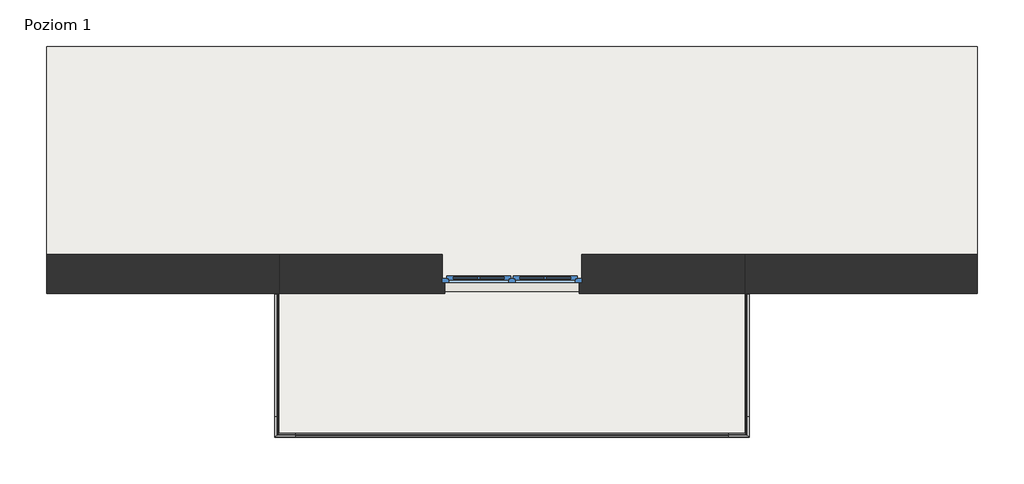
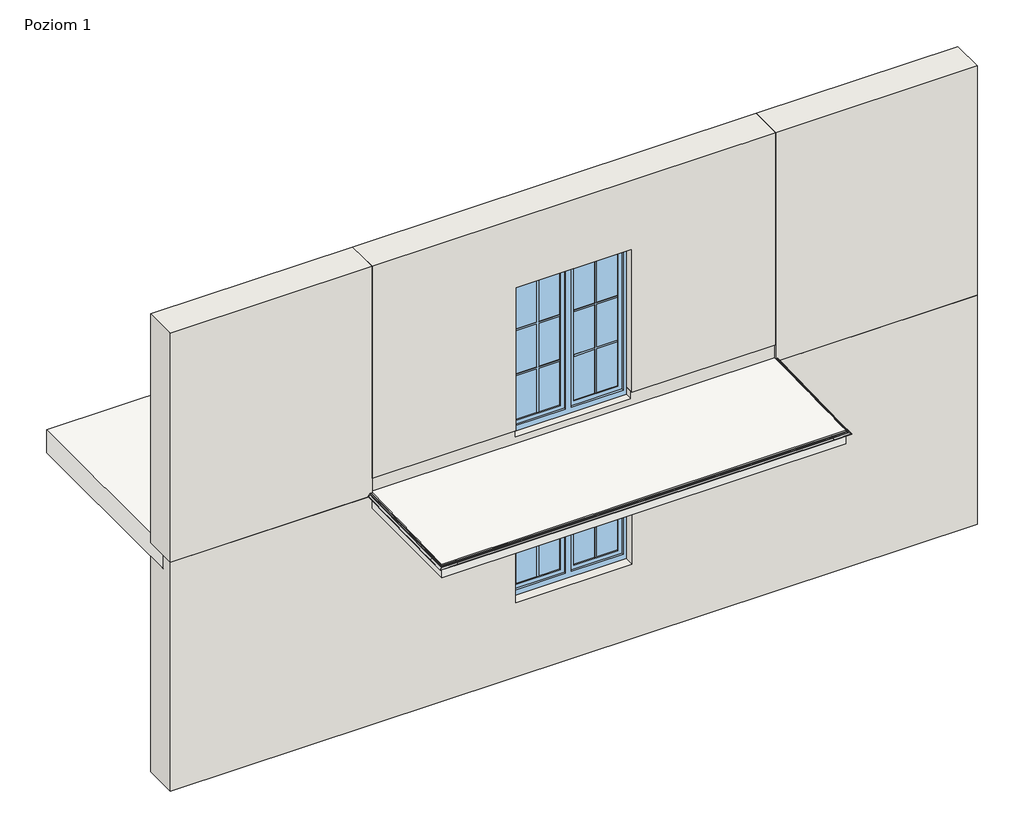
# One storey, part 1 of 4: 5 proxies, 5 walls, 2 slabs, 2 windows.
"""IFC4 building model written with IfcOpenShell, lengths in millimetres."""

from ifc_helpers import new_model, si_unit, origin, place, context, project, spatial, faceted_brep, transform, mapped, element, save
from components import generic_models_2d19b20a, generic_models_3ce2d982, k102_213efe2d, k102_157f2f9b, k102_e13a818e, window_150x150_51b7f79a, window_150x200_12b14935

model = new_model("IFC4")

# Units and contexts
model_context = context("Model", 3, world=origin())
ifc_project = project(units=[si_unit("LENGTHUNIT", "METRE", prefix="MILLI")], contexts=[model_context])

# Site, building, storey
site = spatial("IfcSite", under=ifc_project)
building = spatial("IfcBuilding", under=site)
storey = spatial("IfcBuildingStorey", under=building, Name="Poziom 1", Elevation=0.0)

# Proxies
placement = place(None, origin())
generic_models_shape = generic_models_2d19b20a(model_context)
element("IfcBuildingElementProxy", 1, Name="Odbojnik przyścienny K102 : Odbojnik przyścienny K102", ObjectType="Odbojnik przyścienny K102 : Odbojnik przyścienny K102", at=placement, inside=storey, context=model_context, shape_type="MappedRepresentation", body=[
    mapped(generic_models_shape, transform((-108130.8808604, 47036.5287357, -100.214734), x_axis=(0.0, 0.9998020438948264, 0.019896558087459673), y_axis=(-1.0, 0.0, 0.0), z_axis=(0.0, -0.01989655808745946, 0.9998020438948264))),
])
generic_models_2_shape = generic_models_3ce2d982(model_context)
element("IfcBuildingElementProxy", 2, Name="Odbojnik przyścienny K102 : Odbojnik przyścienny K102", ObjectType="Odbojnik przyścienny K102 : Odbojnik przyścienny K102", at=placement, inside=storey, context=model_context, shape_type="MappedRepresentation", body=[
    mapped(generic_models_2_shape, transform((-113130.3808604, 47036.6029022, -100.213258), x_axis=(0.0, 0.9998020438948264, 0.019896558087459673), y_axis=(-1.0, 0.0, 0.0), z_axis=(0.0, -0.01989655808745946, 0.9998020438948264))),
])
k102_shape = k102_213efe2d(model_context)
element("IfcBuildingElementProxy", 3, Name="K102 Profil okapowy prosty : K102", ObjectType="K102 Profil okapowy prosty : K102", at=placement, inside=storey, context=model_context, shape_type="MappedRepresentation", body=[
    mapped(k102_shape, transform((-113130.6308604, 45539.9782757, -129.9968327), x_axis=(1.0, 0.0, 0.0), y_axis=(0.0, 0.9998020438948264, 0.01989655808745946), z_axis=(0.0, -0.01989655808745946, 0.9998020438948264))),
])
k102_2_shape = k102_157f2f9b(model_context)
element("IfcBuildingElementProxy", 4, Name="K102 Profil okapowy prosty : K102", ObjectType="K102 Profil okapowy prosty : K102", at=placement, inside=storey, context=model_context, shape_type="MappedRepresentation", body=[
    mapped(k102_2_shape, transform((-108130.6308604, 47036.5287357, -100.214734), x_axis=(0.0, -0.9998020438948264, -0.019896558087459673), y_axis=(1.0, 0.0, 0.0), z_axis=(0.0, -0.01989655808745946, 0.9998020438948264))),
])
k102_3_shape = k102_e13a818e(model_context)
element("IfcBuildingElementProxy", 5, Name="K102 Profil okapowy prosty : K102", ObjectType="K102 Profil okapowy prosty : K102", at=placement, inside=storey, context=model_context, shape_type="MappedRepresentation", body=[
    mapped(k102_3_shape, transform((-113130.6308604, 47036.6029022, -100.213258), x_axis=(0.0, -0.9998020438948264, -0.019896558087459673), y_axis=(1.0, 0.0, 0.0), z_axis=(0.0, -0.01989655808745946, 0.9998020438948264))),
])

# Slabs
element("IfcSlab", 6, ObjectType="Balkon - posadzka ceramiczna", at=placement, inside=storey, context=model_context, shape_type="Brep", body=[
    faceted_brep([(-113130.6308604, 45539.6599308, -290.0), (-113130.6308604, 47039.6599308, -290.0), (-113130.6308604, 47147.6599308, -290.0), (-108130.6308604, 47147.6599308, -290.0), (-108130.6308604, 47039.6599308, -290.0), (-108130.6308604, 45539.6599308, -290.0), (-113130.6308604, 45539.6599308, -114.0), (-113130.6308604, 47061.6599308, -83.7114428), (-113130.6308604, 47147.6599308, -82.0), (-113130.6308604, 47147.6599308, -125.0), (-108130.6308604, 47147.6599308, -82.0), (-108130.6308604, 47147.6599308, -125.0), (-108130.6308604, 45539.6599308, -114.0), (-108130.6308604, 47061.6599308, -83.7114428)], [[[0, 1, 2, 3, 4, 5]], [[2, 1, 0, 6, 7, 8, 9]], [[3, 2, 9, 8, 10, 11]], [[0, 5, 12, 6]], [[5, 4, 3, 11, 10, 13, 12]], [[12, 13, 10, 8, 7, 6]]]),
])
element("IfcSlab", 7, ObjectType="Strop", at=placement, inside=storey, context=model_context, shape_type="Brep", body=[
    faceted_brep([(-105630.6308604, 47194.6599308, -300.0), (-115630.6308604, 47194.6599308, -300.0), (-115630.6308604, 47459.6599308, -300.0), (-115630.6308604, 49694.6599308, -300.0), (-105630.6308604, 49694.6599308, -300.0), (-105630.6308604, 47459.6599308, -300.0), (-105630.6308604, 47194.6599308, 0.0), (-105630.6308604, 49694.6599308, 0.0), (-115630.6308604, 49694.6599308, 0.0), (-115630.6308604, 47194.6599308, 0.0), (-113130.6308604, 47194.6599308, 0.0), (-111380.6308604, 47194.6599308, 0.0), (-109880.6308604, 47194.6599308, 0.0), (-108130.6308604, 47194.6599308, 0.0), (-105630.6308604, 47194.6599308, -125.0), (-115630.6308604, 47194.6599308, -125.0)], [[[0, 1, 2, 3, 4, 5]], [[6, 7, 8, 9, 10, 11, 12, 13]], [[1, 0, 14, 6, 13, 12, 11, 10, 9, 15]], [[3, 2, 1, 15, 9, 8]], [[4, 3, 8, 7]], [[0, 5, 4, 7, 6, 14]]]),
])

# Walls
element("IfcWall", 8, ObjectType="Porotherm P+W 25 + o15 + t", at=placement, inside=storey, context=model_context, shape_type="Brep", body=[
    faceted_brep([(-115630.6308604, 47039.6599308, -3125.0), (-105630.6308604, 47039.6599308, -3125.0), (-105630.6308604, 47039.6599308, -125.0), (-108130.6308604, 47039.6599308, -125.0), (-108130.6308604, 47039.6599308, -290.0), (-113130.6308604, 47039.6599308, -290.0), (-113130.6308604, 47039.6599308, -125.0), (-115630.6308604, 47039.6599308, -125.0), (-109910.6308604, 47039.6599308, -680.0), (-109910.6308604, 47039.6599308, -2150.0), (-111350.6308604, 47039.6599308, -2150.0), (-111350.6308604, 47039.6599308, -680.0), (-105630.6308604, 47459.6599308, -3125.0), (-115630.6308604, 47459.6599308, -3125.0), (-115630.6308604, 47459.6599308, -300.0), (-105630.6308604, 47459.6599308, -300.0), (-109880.6308604, 47459.6599308, -2150.0), (-109880.6308604, 47459.6599308, -650.0), (-111380.6308604, 47459.6599308, -650.0), (-111380.6308604, 47459.6599308, -2150.0), (-105630.6308604, 47194.6599308, -300.0), (-105630.6308604, 47194.6599308, -125.0), (-108130.6308604, 47194.6599308, -125.0), (-113130.6308604, 47194.6599308, -125.0), (-115630.6308604, 47194.6599308, -125.0), (-113130.6308604, 47147.6599308, -125.0), (-108130.6308604, 47147.6599308, -125.0), (-115630.6308604, 47194.6599308, -300.0), (-109880.6308604, 47159.6599308, -650.0), (-109880.6308604, 47159.6599308, -2150.0), (-109910.6308604, 47159.6599308, -680.0), (-109910.6308604, 47159.6599308, -2150.0), (-108130.6308604, 47147.6599308, -290.0), (-113130.6308604, 47147.6599308, -290.0), (-111380.6308604, 47159.6599308, -650.0), (-111380.6308604, 47159.6599308, -2150.0), (-111350.6308604, 47159.6599308, -2150.0), (-111350.6308604, 47159.6599308, -680.0)], [[[0, 1, 2, 3, 4, 5, 6, 7], [8, 9, 10, 11]], [[12, 13, 14, 15], [16, 17, 18, 19]], [[1, 0, 13, 12]], [[2, 1, 12, 15, 20, 21]], [[2, 21, 22, 23, 24, 7, 6, 25, 26, 3]], [[0, 7, 24, 27, 14, 13]], [[28, 17, 16, 29]], [[8, 30, 31, 9]], [[27, 20, 15, 14]], [[20, 27, 24, 23, 22, 21]], [[32, 33, 5, 4]], [[5, 33, 25, 6]], [[33, 32, 26, 25]], [[32, 4, 3, 26]], [[17, 28, 34, 18]], [[29, 16, 19, 35, 36, 10, 9, 31]], [[34, 28, 29, 31, 30, 37, 36, 35]], [[34, 35, 19, 18]], [[30, 8, 11, 37]], [[10, 36, 37, 11]]]),
])
element("IfcWall", 9, ObjectType="Porotherm P+W 25 + o15 + t", at=placement, inside=storey, context=model_context, shape_type="Brep", body=[
    faceted_brep([(-115630.6308604, 47039.6599308, -125.0), (-113130.6308604, 47039.6599308, -125.0), (-113130.6308604, 47039.6599308, 100.0), (-113130.6308604, 47039.6599308, 2875.0), (-115630.6308604, 47039.6599308, 2875.0), (-115630.6308604, 47459.6599308, -125.0), (-115630.6308604, 47459.6599308, 2875.0), (-113130.6308604, 47459.6599308, 2875.0), (-113130.6308604, 47459.6599308, 100.0), (-113130.6308604, 47459.6599308, 0.0), (-113130.6308604, 47459.6599308, -125.0), (-115630.6308604, 47194.6599308, -125.0), (-113130.6308604, 47194.6599308, -125.0), (-113130.6308604, 47147.6599308, -125.0)], [[[0, 1, 2, 3, 4]], [[5, 6, 7, 8, 9, 10]], [[1, 0, 11, 5, 10, 12, 13]], [[4, 3, 7, 6]], [[0, 4, 6, 5, 11]], [[1, 13, 12, 10, 9, 8, 7, 3, 2]]]),
])
element("IfcWall", 10, ObjectType="Porotherm P+W 25 + o15 + t", at=placement, inside=storey, context=model_context, shape_type="Brep", body=[
    faceted_brep([(-108130.6308604, 47039.6599308, 2875.0), (-108130.6308604, 47039.6599308, 100.0), (-108130.6308604, 47039.6599308, -125.0), (-105630.6308604, 47039.6599308, -125.0), (-105630.6308604, 47039.6599308, 2875.0), (-108130.6308604, 47459.6599308, -125.0), (-108130.6308604, 47459.6599308, 0.0), (-108130.6308604, 47459.6599308, 100.0), (-108130.6308604, 47459.6599308, 2875.0), (-105630.6308604, 47459.6599308, 2875.0), (-105630.6308604, 47459.6599308, -125.0), (-108130.6308604, 47147.6599308, -125.0), (-108130.6308604, 47194.6599308, -125.0), (-105630.6308604, 47194.6599308, -125.0)], [[[0, 1, 2, 3, 4]], [[5, 6, 7, 8, 9, 10]], [[3, 2, 11, 12, 5, 10, 13]], [[4, 3, 13, 10, 9]], [[0, 4, 9, 8]], [[0, 8, 7, 6, 5, 12, 11, 2, 1]]]),
])
element("IfcWall", 11, ObjectType="Porotherm P+W 25 + o12 + pł ceramiczne", at=placement, inside=storey, context=model_context, shape_type="Brep", body=[
    faceted_brep([(-108130.6308604, 47061.6599308, 100.0), (-109910.6308604, 47061.6599308, 100.0), (-109910.6308604, 47061.6599308, 0.0), (-111350.6308604, 47061.6599308, 0.0), (-111350.6308604, 47061.6599308, 100.0), (-113130.6308604, 47061.6599308, 100.0), (-113130.6308604, 47061.6599308, -83.7114428), (-108130.6308604, 47061.6599308, -83.7114428), (-113130.6308604, 47459.6599308, 0.0), (-113130.6308604, 47459.6599308, 100.0), (-111380.6308604, 47459.6599308, 100.0), (-111380.6308604, 47459.6599308, 0.0), (-108130.6308604, 47459.6599308, 100.0), (-108130.6308604, 47459.6599308, 0.0), (-109880.6308604, 47459.6599308, 0.0), (-109880.6308604, 47459.6599308, 100.0), (-113130.6308604, 47194.6599308, -125.0), (-108130.6308604, 47194.6599308, -125.0), (-108130.6308604, 47147.6599308, -125.0), (-113130.6308604, 47147.6599308, -125.0), (-108130.6308604, 47147.6599308, -82.0), (-108130.6308604, 47194.6599308, 0.0), (-109880.6308604, 47159.6599308, 100.0), (-109910.6308604, 47159.6599308, 100.0), (-111350.6308604, 47159.6599308, 100.0), (-111380.6308604, 47159.6599308, 100.0), (-113130.6308604, 47194.6599308, 0.0), (-113130.6308604, 47147.6599308, -82.0), (-111380.6308604, 47194.6599308, 0.0), (-109880.6308604, 47194.6599308, 0.0), (-111380.6308604, 47159.6599308, 0.0), (-111350.6308604, 47159.6599308, 0.0), (-109910.6308604, 47159.6599308, 0.0), (-109880.6308604, 47159.6599308, 0.0)], [[[0, 1, 2, 3, 4, 5, 6, 7]], [[8, 9, 10, 11]], [[12, 13, 14, 15]], [[16, 17, 18, 19]], [[12, 0, 7, 20, 18, 17, 21, 13]], [[0, 12, 15, 22, 23, 1]], [[9, 5, 4, 24, 25, 10]], [[5, 9, 8, 26, 16, 19, 27, 6]], [[8, 11, 28, 26]], [[13, 21, 29, 14]], [[17, 16, 26, 28, 29, 21]], [[20, 27, 19, 18]], [[27, 20, 7, 6]], [[30, 31, 3, 2, 32, 33, 29, 28]], [[31, 30, 25, 24]], [[33, 32, 23, 22]], [[33, 22, 15, 14, 29]], [[25, 30, 28, 11, 10]], [[32, 2, 1, 23]], [[3, 31, 24, 4]]]),
])
element("IfcWall", 12, ObjectType="Porotherm P+W 25 + o15 + t", at=placement, inside=storey, context=model_context, shape_type="Brep", body=[
    faceted_brep([(-108130.6308604, 47039.6599308, 100.0), (-108130.6308604, 47039.6599308, 2875.0), (-113130.6308604, 47039.6599308, 2875.0), (-113130.6308604, 47039.6599308, 100.0), (-111350.6308604, 47039.6599308, 100.0), (-111350.6308604, 47039.6599308, 1970.0), (-109910.6308604, 47039.6599308, 1970.0), (-109910.6308604, 47039.6599308, 100.0), (-108130.6308604, 47459.6599308, 2875.0), (-108130.6308604, 47459.6599308, 100.0), (-109880.6308604, 47459.6599308, 100.0), (-109880.6308604, 47459.6599308, 2000.0), (-111380.6308604, 47459.6599308, 2000.0), (-111380.6308604, 47459.6599308, 100.0), (-113130.6308604, 47459.6599308, 100.0), (-113130.6308604, 47459.6599308, 2875.0), (-113130.6308604, 47061.6599308, 100.0), (-111380.6308604, 47159.6599308, 100.0), (-111350.6308604, 47159.6599308, 100.0), (-111350.6308604, 47061.6599308, 100.0), (-108130.6308604, 47061.6599308, 100.0), (-109910.6308604, 47061.6599308, 100.0), (-109910.6308604, 47159.6599308, 100.0), (-109880.6308604, 47159.6599308, 100.0), (-109880.6308604, 47159.6599308, 2000.0), (-109910.6308604, 47159.6599308, 1970.0), (-111380.6308604, 47159.6599308, 2000.0), (-111350.6308604, 47159.6599308, 1970.0)], [[[0, 1, 2, 3, 4, 5, 6, 7]], [[8, 9, 10, 11, 12, 13, 14, 15]], [[3, 16, 14, 13, 17, 18, 19, 4]], [[9, 20, 0, 7, 21, 22, 23, 10]], [[1, 0, 20, 9, 8]], [[2, 1, 8, 15]], [[3, 2, 15, 14, 16]], [[24, 11, 10, 23]], [[6, 25, 22, 21, 7]], [[26, 12, 11, 24]], [[26, 24, 23, 22, 25, 27, 18, 17]], [[12, 26, 17, 13]], [[27, 25, 6, 5]], [[27, 5, 4, 19, 18]]]),
])

# Windows
window_150x150_shape = window_150x150_51b7f79a(model_context)
element("IfcWindow", 13, ObjectType="OKNO_2X_W_SZ : 150x150", at=placement, inside=storey, context=model_context, shape_type="MappedRepresentation", body=[
    mapped(window_150x150_shape, transform((-110630.6308604, 47249.6599308, -3000.0), x_axis=(-1.0, 0.0, 0.0), y_axis=(0.0, -1.0, 0.0), z_axis=(0.0, 0.0, 1.0))),
])
window_150x200_shape = window_150x200_12b14935(model_context)
element("IfcWindow", 14, ObjectType="OKNO_2X_W_SZ : 150x200", at=placement, inside=storey, context=model_context, shape_type="MappedRepresentation", body=[
    mapped(window_150x200_shape, transform((-110630.6308604, 47249.6599308, -850.0), x_axis=(-1.0, 0.0, 0.0), y_axis=(0.0, -1.0, 0.0), z_axis=(0.0, 0.0, 1.0))),
])

save(model, "model.ifc")
